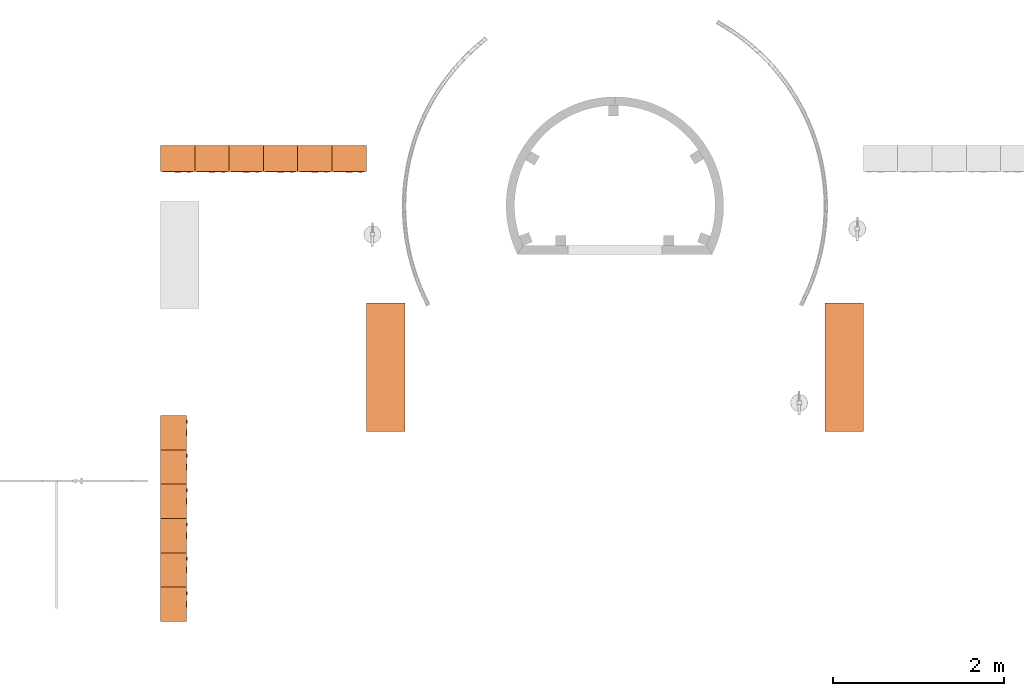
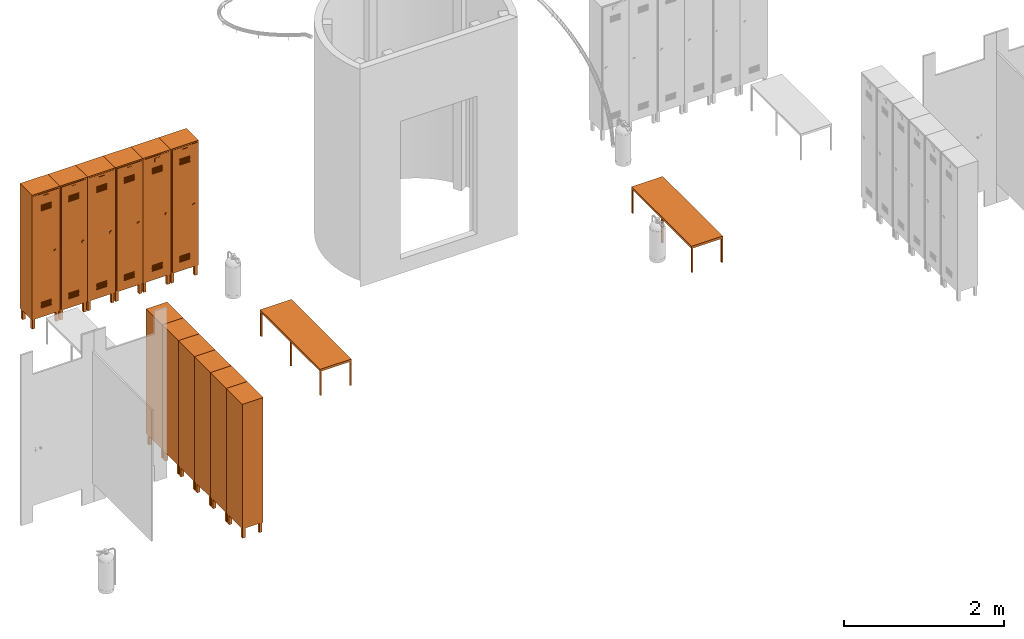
# One storey, part 7 of 9: 14 proxies.
"""IFC4 building model written with IfcOpenShell, lengths in millimetres."""

from ifc_helpers import new_model, entity, si_unit, converted_unit, derived_unit, direction, frame, origin_with_axes, place, context, subcontext, project, spatial, polygons, source, transform, mapped, type_object, element, save


model = new_model("IFC4")

# Units and contexts
model_context = context("Model", 3, precision=0.01, world=origin_with_axes(), true_north=direction((0.0, 1.0)))
body_context = subcontext(model_context, "Body", "Model", "MODEL_VIEW")
ifc_project = project(units=[si_unit("LENGTHUNIT", "METRE", prefix="MILLI"), si_unit("AREAUNIT", "SQUARE_METRE"), si_unit("VOLUMEUNIT", "CUBIC_METRE"), converted_unit("PLANEANGLEUNIT", "DEGREE", entity("IfcPlaneAngleMeasure", 0.0174532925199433), si_unit("PLANEANGLEUNIT", "RADIAN"), dimensions=[0, 0, 0, 0, 0, 0, 0]), converted_unit("TIMEUNIT", "Year", entity("IfcTimeMeasure", 31557600.0), si_unit("TIMEUNIT", "SECOND"), dimensions=[0, 0, 1, 0, 0, 0, 0]), si_unit("MASSUNIT", "GRAM", prefix="KILO"), si_unit("THERMODYNAMICTEMPERATUREUNIT", "DEGREE_CELSIUS"), si_unit("LUMINOUSINTENSITYUNIT", "LUMEN"), si_unit("ENERGYUNIT", "JOULE", prefix="MEGA"), derived_unit("THERMALCONDUCTANCEUNIT", [(si_unit("POWERUNIT", "WATT"), 1), (si_unit("LENGTHUNIT", "METRE"), -1), (si_unit("THERMODYNAMICTEMPERATUREUNIT", "KELVIN"), -1)]), derived_unit("SPECIFICHEATCAPACITYUNIT", [(si_unit("ENERGYUNIT", "JOULE"), 1), (si_unit("MASSUNIT", "GRAM", prefix="KILO"), -1), (si_unit("THERMODYNAMICTEMPERATUREUNIT", "KELVIN"), -1)]), derived_unit("MASSDENSITYUNIT", [(si_unit("MASSUNIT", "GRAM", prefix="KILO"), 1), (si_unit("VOLUMEUNIT", "CUBIC_METRE"), -1)])], contexts=[model_context])

# Site, building, storey
site_placement = place(None, origin_with_axes())
site = spatial("IfcSite", under=ifc_project, at=site_placement, Name="Exteriér", CompositionType="ELEMENT")
building_placement = place(site_placement, origin_with_axes())
building = spatial("IfcBuilding", under=site, at=building_placement, Name="Univerzitní lezecké centrum", CompositionType="ELEMENT")
storey_placement = place(building_placement, frame((0.0, 0.0, 3200.0), z_axis=(0.0, 0.0, 1.0), x_axis=(1.0, 0.0, 0.0)))
storey = spatial("IfcBuildingStorey", under=building, at=storey_placement, Name="2.NP", CompositionType="ELEMENT", Elevation=3200.0)

# Proxies
building_element_proxy_type_1 = type_object("IfcBuildingElementProxyType", Name="Lavice 24", PredefinedType="NOTDEFINED")
shared_shape_1 = source(origin_with_axes(), body_context, "Body", "Tessellation", [
    polygons([(20.0, 0.0, 0.0), (0.0, 0.0, 0.0), (0.0, 20.0, 0.0), (20.0, 20.0, 0.0), (20.0, 0.0, 385.0), (0.0, 0.0, 385.0), (0.0, 20.0, 385.0), (20.0, 20.0, 385.0)], [[[1, 2, 3, 4]], [[2, 1, 5, 6]], [[3, 2, 6, 7]], [[4, 3, 7, 8]], [[1, 4, 8, 5]], [[6, 5, 8, 7]]], closed=True),
    polygons([(20.0, 430.0, 0.0), (0.0, 430.0, 0.0), (0.0, 450.0, 0.0), (20.0, 450.0, 0.0), (20.0, 430.0, 385.0), (0.0, 430.0, 385.0), (0.0, 450.0, 385.0), (20.0, 450.0, 385.0)], [[[1, 2, 3, 4]], [[2, 1, 5, 6]], [[3, 2, 6, 7]], [[4, 3, 7, 8]], [[1, 4, 8, 5]], [[6, 5, 8, 7]]], closed=True),
    polygons([(1500.0, 0.0, 0.0), (1480.0, 0.0, 0.0), (1480.0, 20.0, 0.0), (1500.0, 20.0, 0.0), (1500.0, 0.0, 385.0), (1480.0, 0.0, 385.0), (1480.0, 20.0, 385.0), (1500.0, 20.0, 385.0)], [[[1, 2, 3, 4]], [[2, 1, 5, 6]], [[3, 2, 6, 7]], [[4, 3, 7, 8]], [[1, 4, 8, 5]], [[6, 5, 8, 7]]], closed=True),
    polygons([(1500.0, 430.0, 0.0), (1480.0, 430.0, 0.0), (1480.0, 450.0, 0.0), (1500.0, 450.0, 0.0), (1500.0, 430.0, 385.0), (1480.0, 430.0, 385.0), (1480.0, 450.0, 385.0), (1500.0, 450.0, 385.0)], [[[1, 2, 3, 4]], [[2, 1, 5, 6]], [[3, 2, 6, 7]], [[4, 3, 7, 8]], [[1, 4, 8, 5]], [[6, 5, 8, 7]]], closed=True),
    polygons([(760.0, 0.0, 0.0), (740.0, 0.0, 0.0), (740.0, 20.0, 0.0), (760.0, 20.0, 0.0), (760.0, 0.0, 385.0), (740.0, 0.0, 385.0), (740.0, 20.0, 385.0), (760.0, 20.0, 385.0)], [[[1, 2, 3, 4]], [[2, 1, 5, 6]], [[3, 2, 6, 7]], [[4, 3, 7, 8]], [[1, 4, 8, 5]], [[6, 5, 8, 7]]], closed=True),
    polygons([(760.0, 430.0, 0.0), (740.0, 430.0, 0.0), (740.0, 450.0, 0.0), (760.0, 450.0, 0.0), (760.0, 430.0, 385.0), (740.0, 430.0, 385.0), (740.0, 450.0, 385.0), (760.0, 450.0, 385.0)], [[[1, 2, 3, 4]], [[2, 1, 5, 6]], [[3, 2, 6, 7]], [[4, 3, 7, 8]], [[1, 4, 8, 5]], [[6, 5, 8, 7]]], closed=True),
    polygons([(740.0, 0.0, 365.0000000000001), (20.0, 0.0, 365.0000000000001), (20.0, 20.0, 365.0000000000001), (740.0, 20.0, 365.0000000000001), (740.0, 0.0, 385.0000000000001), (20.0, 0.0, 385.0000000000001), (20.0, 20.0, 385.0000000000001), (740.0, 20.0, 385.0000000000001)], [[[1, 2, 3, 4]], [[2, 1, 5, 6]], [[3, 2, 6, 7]], [[4, 3, 7, 8]], [[1, 4, 8, 5]], [[6, 5, 8, 7]]], closed=True),
    polygons([(1480.0, 0.0, 365.0000000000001), (760.0, 0.0, 365.0000000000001), (760.0, 20.0, 365.0000000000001), (1480.0, 20.0, 365.0000000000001), (1480.0, 0.0, 385.0000000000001), (760.0, 0.0, 385.0000000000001), (760.0, 20.0, 385.0000000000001), (1480.0, 20.0, 385.0000000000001)], [[[1, 2, 3, 4]], [[2, 1, 5, 6]], [[3, 2, 6, 7]], [[4, 3, 7, 8]], [[1, 4, 8, 5]], [[6, 5, 8, 7]]], closed=True),
    polygons([(740.0, 430.0, 365.0000000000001), (20.0, 430.0, 365.0000000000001), (20.0, 450.0, 365.0000000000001), (740.0, 450.0, 365.0000000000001), (740.0, 430.0, 385.0000000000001), (20.0, 430.0, 385.0000000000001), (20.0, 450.0, 385.0000000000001), (740.0, 450.0, 385.0000000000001)], [[[1, 2, 3, 4]], [[2, 1, 5, 6]], [[3, 2, 6, 7]], [[4, 3, 7, 8]], [[1, 4, 8, 5]], [[6, 5, 8, 7]]], closed=True),
    polygons([(1480.0, 430.0, 365.0000000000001), (760.0, 430.0, 365.0000000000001), (760.0, 450.0, 365.0000000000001), (1480.0, 450.0, 365.0000000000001), (1480.0, 430.0, 385.0000000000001), (760.0, 430.0, 385.0000000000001), (760.0, 450.0, 385.0000000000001), (1480.0, 450.0, 385.0000000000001)], [[[1, 2, 3, 4]], [[2, 1, 5, 6]], [[3, 2, 6, 7]], [[4, 3, 7, 8]], [[1, 4, 8, 5]], [[6, 5, 8, 7]]], closed=True),
    polygons([(20.0, 20.0, 365.0000000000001), (0.0, 20.0, 365.0000000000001), (0.0, 430.0000000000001, 365.0000000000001), (20.0, 430.0000000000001, 365.0000000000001), (20.0, 20.0, 385.0000000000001), (0.0, 20.0, 385.0000000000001), (0.0, 430.0000000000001, 385.0000000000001), (20.0, 430.0000000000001, 385.0000000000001)], [[[1, 2, 3, 4]], [[2, 1, 5, 6]], [[3, 2, 6, 7]], [[4, 3, 7, 8]], [[1, 4, 8, 5]], [[6, 5, 8, 7]]], closed=True),
    polygons([(760.0, 20.0, 365.0000000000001), (740.0, 20.0, 365.0000000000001), (740.0, 430.0000000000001, 365.0000000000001), (760.0, 430.0000000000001, 365.0000000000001), (760.0, 20.0, 385.0000000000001), (740.0, 20.0, 385.0000000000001), (740.0, 430.0000000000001, 385.0000000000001), (760.0, 430.0000000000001, 385.0000000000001)], [[[1, 2, 3, 4]], [[2, 1, 5, 6]], [[3, 2, 6, 7]], [[4, 3, 7, 8]], [[1, 4, 8, 5]], [[6, 5, 8, 7]]], closed=True),
    polygons([(1500.0, 20.0, 365.0000000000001), (1480.0, 20.0, 365.0000000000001), (1480.0, 430.0000000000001, 365.0000000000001), (1500.0, 430.0000000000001, 365.0000000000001), (1500.0, 20.0, 385.0000000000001), (1480.0, 20.0, 385.0000000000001), (1480.0, 430.0000000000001, 385.0000000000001), (1500.0, 430.0000000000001, 385.0000000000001)], [[[1, 2, 3, 4]], [[2, 1, 5, 6]], [[3, 2, 6, 7]], [[4, 3, 7, 8]], [[1, 4, 8, 5]], [[6, 5, 8, 7]]], closed=True),
    polygons([(0.0, 0.0, 385.0), (1500.0, 0.0, 385.0), (1500.0, 0.0, 400.0), (0.0, 0.0, 400.0), (0.0, 450.0, 385.0), (1500.0, 450.0, 385.0), (1500.0, 450.0, 400.0), (0.0, 450.0, 400.0)], [[[1, 2, 3, 4]], [[1, 5, 6, 2]], [[2, 6, 7, 3]], [[4, 3, 7, 8]], [[5, 1, 4, 8]], [[6, 5, 8, 7]]], closed=True),
])
proxy_1_placement = place(storey_placement, frame((-0.2473635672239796, 1065.533240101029, 0.0), z_axis=(0.0, 0.0, 1.0), x_axis=(0.0, 1.0, 0.0)))
element("IfcBuildingElementProxy", 1, at=proxy_1_placement, inside=storey, type_object=building_element_proxy_type_1, Name="OV04", PredefinedType="NOTDEFINED", context=body_context, shape_type="MappedRepresentation", body=[
    mapped(shared_shape_1, transform((0.0, 0.0, 0.0))),
])
shared_shape_2 = source(origin_with_axes(), body_context, "Body", "Tessellation", [
    polygons([(-20.0, 0.0, 0.0), (-20.0, 20.0, 0.0), (0.0, 20.0, 0.0), (0.0, 0.0, 0.0), (-20.0, 0.0, 385.0), (-20.0, 20.0, 385.0), (0.0, 20.0, 385.0), (0.0, 0.0, 385.0)], [[[1, 2, 3, 4]], [[1, 5, 6, 2]], [[2, 6, 7, 3]], [[3, 7, 8, 4]], [[4, 8, 5, 1]], [[8, 7, 6, 5]]], closed=True),
    polygons([(-20.0, 430.0, 0.0), (-20.0, 450.0, 0.0), (0.0, 450.0, 0.0), (0.0, 430.0, 0.0), (-20.0, 430.0, 385.0), (-20.0, 450.0, 385.0), (0.0, 450.0, 385.0), (0.0, 430.0, 385.0)], [[[1, 2, 3, 4]], [[1, 5, 6, 2]], [[2, 6, 7, 3]], [[3, 7, 8, 4]], [[4, 8, 5, 1]], [[8, 7, 6, 5]]], closed=True),
    polygons([(-1500.0, 0.0, 0.0), (-1500.0, 20.0, 0.0), (-1480.0, 20.0, 0.0), (-1480.0, 0.0, 0.0), (-1500.0, 0.0, 385.0), (-1500.0, 20.0, 385.0), (-1480.0, 20.0, 385.0), (-1480.0, 0.0, 385.0)], [[[1, 2, 3, 4]], [[1, 5, 6, 2]], [[2, 6, 7, 3]], [[3, 7, 8, 4]], [[4, 8, 5, 1]], [[8, 7, 6, 5]]], closed=True),
    polygons([(-1500.0, 430.0, 0.0), (-1500.0, 450.0, 0.0), (-1480.0, 450.0, 0.0), (-1480.0, 430.0, 0.0), (-1500.0, 430.0, 385.0), (-1500.0, 450.0, 385.0), (-1480.0, 450.0, 385.0), (-1480.0, 430.0, 385.0)], [[[1, 2, 3, 4]], [[1, 5, 6, 2]], [[2, 6, 7, 3]], [[3, 7, 8, 4]], [[4, 8, 5, 1]], [[8, 7, 6, 5]]], closed=True),
    polygons([(-760.0, 0.0, 0.0), (-760.0, 20.0, 0.0), (-740.0, 20.0, 0.0), (-740.0, 0.0, 0.0), (-760.0, 0.0, 385.0), (-760.0, 20.0, 385.0), (-740.0, 20.0, 385.0), (-740.0, 0.0, 385.0)], [[[1, 2, 3, 4]], [[1, 5, 6, 2]], [[2, 6, 7, 3]], [[3, 7, 8, 4]], [[4, 8, 5, 1]], [[8, 7, 6, 5]]], closed=True),
    polygons([(-760.0, 430.0, 0.0), (-760.0, 450.0, 0.0), (-740.0, 450.0, 0.0), (-740.0, 430.0, 0.0), (-760.0, 430.0, 385.0), (-760.0, 450.0, 385.0), (-740.0, 450.0, 385.0), (-740.0, 430.0, 385.0)], [[[1, 2, 3, 4]], [[1, 5, 6, 2]], [[2, 6, 7, 3]], [[3, 7, 8, 4]], [[4, 8, 5, 1]], [[8, 7, 6, 5]]], closed=True),
    polygons([(-740.0, 0.0, 365.0000000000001), (-740.0, 20.0, 365.0000000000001), (-20.0, 20.0, 365.0000000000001), (-20.0, 0.0, 365.0000000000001), (-740.0, 0.0, 385.0000000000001), (-740.0, 20.0, 385.0000000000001), (-20.0, 20.0, 385.0000000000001), (-20.0, 0.0, 385.0000000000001)], [[[1, 2, 3, 4]], [[1, 5, 6, 2]], [[2, 6, 7, 3]], [[3, 7, 8, 4]], [[4, 8, 5, 1]], [[8, 7, 6, 5]]], closed=True),
    polygons([(-1480.0, 0.0, 365.0000000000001), (-1480.0, 20.0, 365.0000000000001), (-760.0, 20.0, 365.0000000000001), (-760.0, 0.0, 365.0000000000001), (-1480.0, 0.0, 385.0000000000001), (-1480.0, 20.0, 385.0000000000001), (-760.0, 20.0, 385.0000000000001), (-760.0, 0.0, 385.0000000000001)], [[[1, 2, 3, 4]], [[1, 5, 6, 2]], [[2, 6, 7, 3]], [[3, 7, 8, 4]], [[4, 8, 5, 1]], [[8, 7, 6, 5]]], closed=True),
    polygons([(-740.0, 430.0, 365.0000000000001), (-740.0, 450.0, 365.0000000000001), (-20.0, 450.0, 365.0000000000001), (-20.0, 430.0, 365.0000000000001), (-740.0, 430.0, 385.0000000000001), (-740.0, 450.0, 385.0000000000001), (-20.0, 450.0, 385.0000000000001), (-20.0, 430.0, 385.0000000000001)], [[[1, 2, 3, 4]], [[1, 5, 6, 2]], [[2, 6, 7, 3]], [[3, 7, 8, 4]], [[4, 8, 5, 1]], [[8, 7, 6, 5]]], closed=True),
    polygons([(-1480.0, 430.0, 365.0000000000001), (-1480.0, 450.0, 365.0000000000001), (-760.0, 450.0, 365.0000000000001), (-760.0, 430.0, 365.0000000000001), (-1480.0, 430.0, 385.0000000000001), (-1480.0, 450.0, 385.0000000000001), (-760.0, 450.0, 385.0000000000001), (-760.0, 430.0, 385.0000000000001)], [[[1, 2, 3, 4]], [[1, 5, 6, 2]], [[2, 6, 7, 3]], [[3, 7, 8, 4]], [[4, 8, 5, 1]], [[8, 7, 6, 5]]], closed=True),
    polygons([(-20.0, 20.0, 365.0000000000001), (-20.0, 430.0000000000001, 365.0000000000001), (0.0, 430.0000000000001, 365.0000000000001), (0.0, 20.0, 365.0000000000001), (-20.0, 20.0, 385.0000000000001), (-20.0, 430.0000000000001, 385.0000000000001), (0.0, 430.0000000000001, 385.0000000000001), (0.0, 20.0, 385.0000000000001)], [[[1, 2, 3, 4]], [[1, 5, 6, 2]], [[2, 6, 7, 3]], [[3, 7, 8, 4]], [[4, 8, 5, 1]], [[8, 7, 6, 5]]], closed=True),
    polygons([(-760.0, 20.0, 365.0000000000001), (-760.0, 430.0000000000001, 365.0000000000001), (-740.0, 430.0000000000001, 365.0000000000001), (-740.0, 20.0, 365.0000000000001), (-760.0, 20.0, 385.0000000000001), (-760.0, 430.0000000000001, 385.0000000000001), (-740.0, 430.0000000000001, 385.0000000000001), (-740.0, 20.0, 385.0000000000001)], [[[1, 2, 3, 4]], [[1, 5, 6, 2]], [[2, 6, 7, 3]], [[3, 7, 8, 4]], [[4, 8, 5, 1]], [[8, 7, 6, 5]]], closed=True),
    polygons([(-1500.0, 20.0, 365.0000000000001), (-1500.0, 430.0000000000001, 365.0000000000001), (-1480.0, 430.0000000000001, 365.0000000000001), (-1480.0, 20.0, 365.0000000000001), (-1500.0, 20.0, 385.0000000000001), (-1500.0, 430.0000000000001, 385.0000000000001), (-1480.0, 430.0000000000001, 385.0000000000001), (-1480.0, 20.0, 385.0000000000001)], [[[1, 2, 3, 4]], [[1, 5, 6, 2]], [[2, 6, 7, 3]], [[3, 7, 8, 4]], [[4, 8, 5, 1]], [[8, 7, 6, 5]]], closed=True),
    polygons([(0.0, 0.0, 385.0), (0.0, 0.0, 400.0), (-1500.0, 0.0, 400.0), (-1500.0, 0.0, 385.0), (0.0, 450.0, 385.0), (0.0, 450.0, 400.0), (-1500.0, 450.0, 400.0), (-1500.0, 450.0, 385.0)], [[[1, 2, 3, 4]], [[5, 6, 2, 1]], [[2, 6, 7, 3]], [[4, 3, 7, 8]], [[1, 4, 8, 5]], [[8, 7, 6, 5]]], closed=True),
])
proxy_2_placement = place(storey_placement, frame((4899.9506612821, 1065.533240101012, 0.0), z_axis=(0.0, 0.0, 1.0), x_axis=(0.0, -1.0, 0.0)))
element("IfcBuildingElementProxy", 2, at=proxy_2_placement, inside=storey, type_object=building_element_proxy_type_1, Name="OV04", PredefinedType="NOTDEFINED", context=body_context, shape_type="MappedRepresentation", body=[
    mapped(shared_shape_2, transform((0.0, 0.0, 0.0))),
])
building_element_proxy_type_2 = type_object("IfcBuildingElementProxyType", Name="Skříňky 24", PredefinedType="NOTDEFINED")
shared_shape_3 = source(origin_with_axes(), body_context, "Body", "Tessellation", [
    polygons([(-9.999999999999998, 9.999999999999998, 0.0), (-9.999999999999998, 9.999999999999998, 150.0), (-50.0, 9.999999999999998, 150.0), (-50.0, 9.999999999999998, 0.0), (-9.999999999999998, 50.0, 0.0), (-9.999999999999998, 50.0, 150.0), (-50.0, 50.0, 150.0), (-50.0, 50.0, 0.0)], [[[1, 2, 3, 4]], [[5, 6, 2, 1]], [[2, 6, 7, 3]], [[4, 3, 7, 8]], [[1, 4, 8, 5]], [[8, 7, 6, 5]]], closed=True),
    polygons([(-350.0, 9.999999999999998, 0.0), (-350.0, 9.999999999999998, 150.0), (-390.0, 9.999999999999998, 150.0), (-390.0, 9.999999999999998, 0.0), (-350.0, 50.0, 0.0), (-350.0, 50.0, 150.0), (-390.0, 50.0, 150.0), (-390.0, 50.0, 0.0)], [[[1, 2, 3, 4]], [[5, 6, 2, 1]], [[2, 6, 7, 3]], [[4, 3, 7, 8]], [[1, 4, 8, 5]], [[8, 7, 6, 5]]], closed=True),
    polygons([(-9.999999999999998, 250.0, 0.0), (-9.999999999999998, 250.0, 150.0), (-50.0, 250.0, 150.0), (-50.0, 250.0, 0.0), (-9.999999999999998, 290.0000000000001, 0.0), (-9.999999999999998, 290.0000000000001, 150.0), (-50.0, 290.0000000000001, 150.0), (-50.0, 290.0000000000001, 0.0)], [[[1, 2, 3, 4]], [[5, 6, 2, 1]], [[2, 6, 7, 3]], [[4, 3, 7, 8]], [[1, 4, 8, 5]], [[8, 7, 6, 5]]], closed=True),
    polygons([(-350.0, 250.0, 0.0), (-350.0, 250.0, 150.0), (-390.0, 250.0, 150.0), (-390.0, 250.0, 0.0), (-350.0, 290.0000000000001, 0.0), (-350.0, 290.0000000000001, 150.0), (-390.0, 290.0000000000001, 150.0), (-390.0, 290.0000000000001, 0.0)], [[[1, 2, 3, 4]], [[5, 6, 2, 1]], [[2, 6, 7, 3]], [[4, 3, 7, 8]], [[1, 4, 8, 5]], [[8, 7, 6, 5]]], closed=True),
    polygons([(0.0, 0.0, 150.0), (0.0, 279.9999999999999, 150.0), (0.0, 279.9999999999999, 2050.0), (0.0, 0.0, 2050.0), (-400.0, 0.0, 150.0), (-400.0, 279.9999999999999, 150.0), (-400.0, 279.9999999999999, 2050.0), (-20.0, 279.9999999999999, 170.0), (-20.0, 279.9999999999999, 2030.0), (-380.0, 279.9999999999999, 2030.0), (-380.0, 279.9999999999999, 170.0), (-400.0, 0.0, 2050.0), (-20.0, 0.0, 170.0), (-380.0, 0.0, 170.0), (-380.0, 0.0, 2030.0), (-20.0, 0.0, 2030.0)], [[[1, 2, 3, 4]], [[5, 6, 2, 1]], [[2, 6, 7, 3], [8, 9, 10, 11]], [[4, 3, 7, 12]], [[1, 4, 12, 5], [13, 14, 15, 16]], [[12, 7, 6, 5]], [[16, 9, 8, 13]], [[15, 10, 9, 16]], [[14, 11, 10, 15]], [[13, 8, 11, 14]]], closed=True),
    polygons([(0.0, 279.9999999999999, 2050.0), (0.0, 299.9999999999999, 2050.0), (-400.0, 299.9999999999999, 2050.0), (-400.0, 279.9999999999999, 2050.0), (0.0, 279.9999999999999, 150.0), (0.0, 300.0, 150.0), (-400.0, 300.0, 150.0), (-400.0, 279.9999999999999, 150.0)], [[[1, 2, 3, 4]], [[5, 6, 2, 1]], [[2, 6, 7, 3]], [[4, 3, 7, 8]], [[1, 4, 8, 5]], [[8, 7, 6, 5]]], closed=True),
    polygons([(-20.0, 5.0, 170.0), (-20.0, -5.0, 170.0), (-380.0000000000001, -5.0, 170.0), (-380.0000000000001, 5.0, 170.0), (-20.0, 5.000000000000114, 2030.0), (-20.0, -4.999999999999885, 2030.0), (-380.0000000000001, -4.999999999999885, 2030.0), (-125.0, -4.999999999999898, 1850.0), (-275.0, -4.999999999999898, 1850.0), (-275.0, -4.999999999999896, 1860.0), (-125.0, -4.999999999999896, 1860.0), (-125.0, -4.999999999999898, 1830.0), (-275.0, -4.999999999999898, 1830.0), (-275.0, -4.999999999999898, 1840.0), (-125.0, -4.999999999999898, 1840.0), (-125.0, -4.9999999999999, 1810.0), (-275.0, -4.9999999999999, 1810.0), (-275.0, -4.9999999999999, 1820.0), (-125.0, -4.9999999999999, 1820.0), (-125.0, -4.999999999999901, 1790.0), (-275.0, -4.999999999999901, 1790.0), (-275.0, -4.9999999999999, 1800.0), (-125.0, -4.9999999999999, 1800.0), (-125.0, -4.999999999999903, 1770.0), (-275.0, -4.999999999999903, 1770.0), (-275.0, -4.999999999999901, 1780.0), (-125.0, -4.999999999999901, 1780.0), (-125.0, -4.999999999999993, 290.0), (-275.0, -4.999999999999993, 290.0), (-275.0, -4.999999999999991, 300.0), (-125.0, -4.999999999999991, 300.0), (-125.0, -4.999999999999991, 310.0), (-275.0, -4.999999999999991, 310.0), (-275.0, -4.999999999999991, 319.9999999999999), (-125.0, -4.999999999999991, 319.9999999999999), (-125.0, -4.999999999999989, 329.9999999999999), (-275.0, -4.999999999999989, 329.9999999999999), (-275.0, -4.999999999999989, 339.9999999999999), (-125.0, -4.999999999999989, 339.9999999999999), (-125.0, -4.999999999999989, 350.0), (-275.0, -4.999999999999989, 350.0), (-275.0, -4.999999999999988, 360.0), (-125.0, -4.999999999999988, 360.0), (-125.0, -4.999999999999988, 370.0), (-275.0, -4.999999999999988, 370.0), (-275.0, -4.999999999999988, 380.0), (-125.0, -4.999999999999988, 380.0), (-380.0000000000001, 5.000000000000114, 2030.0), (-125.0, 5.000000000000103, 1850.0), (-125.0, 5.000000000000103, 1860.0), (-275.0, 5.000000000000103, 1860.0), (-275.0, 5.000000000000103, 1850.0), (-125.0, 5.000000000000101, 1830.0), (-125.0, 5.000000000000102, 1840.0), (-275.0, 5.000000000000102, 1840.0), (-275.0, 5.000000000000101, 1830.0), (-125.0, 5.0000000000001, 1810.0), (-125.0, 5.0000000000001, 1820.0), (-275.0, 5.0000000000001, 1820.0), (-275.0, 5.0000000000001, 1810.0), (-125.0, 5.000000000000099, 1790.0), (-125.0, 5.000000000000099, 1800.0), (-275.0, 5.000000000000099, 1800.0), (-275.0, 5.000000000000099, 1790.0), (-125.0, 5.000000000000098, 1770.0), (-125.0, 5.000000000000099, 1780.0), (-275.0, 5.000000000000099, 1780.0), (-275.0, 5.000000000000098, 1770.0), (-125.0, 5.000000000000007, 290.0), (-125.0, 5.000000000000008, 300.0), (-275.0, 5.000000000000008, 300.0), (-275.0, 5.000000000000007, 290.0), (-125.0, 5.000000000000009, 310.0), (-125.0, 5.00000000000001, 319.9999999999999), (-275.0, 5.00000000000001, 319.9999999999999), (-275.0, 5.000000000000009, 310.0), (-125.0, 5.00000000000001, 329.9999999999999), (-125.0, 5.000000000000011, 339.9999999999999), (-275.0, 5.000000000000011, 339.9999999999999), (-275.0, 5.00000000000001, 329.9999999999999), (-125.0, 5.000000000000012, 350.0), (-125.0, 5.000000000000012, 360.0), (-275.0, 5.000000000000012, 360.0), (-275.0, 5.000000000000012, 350.0), (-125.0, 5.000000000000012, 370.0), (-125.0, 5.000000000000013, 380.0), (-275.0, 5.000000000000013, 380.0), (-275.0, 5.000000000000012, 370.0)], [[[1, 2, 3, 4]], [[5, 6, 2, 1]], [[2, 6, 7, 3], [8, 9, 10, 11], [12, 13, 14, 15], [16, 17, 18, 19], [20, 21, 22, 23], [24, 25, 26, 27], [28, 29, 30, 31], [32, 33, 34, 35], [36, 37, 38, 39], [40, 41, 42, 43], [44, 45, 46, 47]], [[4, 3, 7, 48]], [[1, 4, 48, 5], [49, 50, 51, 52], [53, 54, 55, 56], [57, 58, 59, 60], [61, 62, 63, 64], [65, 66, 67, 68], [69, 70, 71, 72], [73, 74, 75, 76], [77, 78, 79, 80], [81, 82, 83, 84], [85, 86, 87, 88]], [[48, 7, 6, 5]], [[52, 9, 8, 49]], [[51, 10, 9, 52]], [[50, 11, 10, 51]], [[49, 8, 11, 50]], [[56, 13, 12, 53]], [[55, 14, 13, 56]], [[54, 15, 14, 55]], [[53, 12, 15, 54]], [[60, 17, 16, 57]], [[59, 18, 17, 60]], [[58, 19, 18, 59]], [[57, 16, 19, 58]], [[64, 21, 20, 61]], [[63, 22, 21, 64]], [[62, 23, 22, 63]], [[61, 20, 23, 62]], [[68, 25, 24, 65]], [[67, 26, 25, 68]], [[66, 27, 26, 67]], [[65, 24, 27, 66]], [[72, 29, 28, 69]], [[71, 30, 29, 72]], [[70, 31, 30, 71]], [[69, 28, 31, 70]], [[76, 33, 32, 73]], [[75, 34, 33, 76]], [[74, 35, 34, 75]], [[73, 32, 35, 74]], [[80, 37, 36, 77]], [[79, 38, 37, 80]], [[78, 39, 38, 79]], [[77, 36, 39, 78]], [[84, 41, 40, 81]], [[83, 42, 41, 84]], [[82, 43, 42, 83]], [[81, 40, 43, 82]], [[88, 45, 44, 85]], [[87, 46, 45, 88]], [[86, 47, 46, 87]], [[85, 44, 47, 86]]], closed=True),
    polygons([(-237.5, -10.0, 1950.0), (-237.5, -5.0, 1950.0), (-162.5, -5.0, 1950.0), (-162.5, -10.0, 1950.0), (-237.5, -10.0, 2000.0), (-237.5, -5.0, 2000.0), (-162.5, -5.0, 2000.0), (-162.5, -10.0, 2000.0)], [[[1, 2, 3, 4]], [[1, 5, 6, 2]], [[2, 6, 7, 3]], [[3, 7, 8, 4]], [[4, 8, 5, 1]], [[8, 7, 6, 5]]], closed=True),
    polygons([(-84.14213562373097, -5.000000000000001, 1085.857864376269), (-90.00000000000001, -5.0, 1100.0), (-84.14213562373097, -4.999999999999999, 1114.142135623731), (-70.0, -4.999999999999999, 1120.0), (-55.85786437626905, -4.999999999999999, 1114.142135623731), (-50.0, -5.0, 1100.0), (-55.85786437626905, -5.000000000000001, 1085.857864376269), (-70.0, -5.000000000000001, 1080.0), (-84.14213562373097, -15.0, 1085.857864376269), (-90.00000000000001, -15.0, 1100.0), (-84.14213562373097, -15.0, 1114.142135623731), (-70.0, -15.0, 1120.0), (-55.85786437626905, -15.0, 1114.142135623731), (-50.0, -15.0, 1100.0), (-55.85786437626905, -15.0, 1085.857864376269), (-70.0, -15.0, 1080.0)], [[[1, 2, 3, 4, 5, 6, 7, 8]], [[1, 9, 10, 2]], [[2, 10, 11, 3]], [[3, 11, 12, 4]], [[4, 12, 13, 5]], [[5, 13, 14, 6]], [[6, 14, 15, 7]], [[7, 15, 16, 8]], [[8, 16, 9, 1]], [[9, 16, 15, 14, 13, 12, 11, 10]]], closed=True),
])
for number, where, z_axis, x_axis, name in (
    (3, (-450.351766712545, 4099.999999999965, 0.0), (0.0, 0.0, 1.0), (1.0, 0.0, 0.0), "OV02"),
    (4, (-2550.319378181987, 850.3872060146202, 0.0), (0.0, 0.0, 1.0), (0.0, 1.0, 0.0), "OV02"),
    (5, (-850.3517667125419, 4099.999999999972, 0.0), (0.0, 0.0, 1.0), (1.0, 0.0, 0.0), "OV02"),
    (6, (-2550.319378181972, 1250.387206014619, 0.0), (0.0, 0.0, 1.0), (0.0, 1.0, 0.0), "OV02"),
    (7, (-2450.351766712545, 4100.000000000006, 0.0), (0.0, 0.0, 1.0), (1.0, 0.0, 0.0), "OV02"),
    (8, (-2550.319378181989, 450.3872060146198, 0.0), (0.0, 0.0, 1.0), (0.0, 1.0, 0.0), "OV02"),
    (9, (-2550.319378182, 50.3872060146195, 0.0), (0.0, 0.0, 1.0), (0.0, 1.0, 0.0), "OV02"),
    (10, (-1650.351766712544, 4099.99999999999, 0.0), (0.0, 0.0, 1.0), (1.0, 0.0, 0.0), "OV02"),
    (11, (-2050.351766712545, 4099.999999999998, 0.0), (0.0, 0.0, 1.0), (1.0, 0.0, 0.0), "OV02"),
    (12, (-2550.319378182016, -749.6127939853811, 0.0), (0.0, 0.0, 1.0), (0.0, 1.0, 0.0), "OV02"),
    (13, (-1250.351766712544, 4099.999999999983, 0.0), (0.0, 0.0, 1.0), (1.0, 0.0, 0.0), "OV02"),
    (14, (-2550.319378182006, -349.6127939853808, 0.0), (0.0, 0.0, 1.0), (0.0, 1.0, 0.0), "OV02"),
):
    element("IfcBuildingElementProxy", number, at=place(storey_placement, frame(where, z_axis=z_axis, x_axis=x_axis)), inside=storey, type_object=building_element_proxy_type_2, Name=name, PredefinedType="NOTDEFINED", context=body_context, shape_type="MappedRepresentation", body=[
        mapped(shared_shape_3, transform((0.0, 0.0, 0.0))),
    ])

save(model, "model.ifc")
